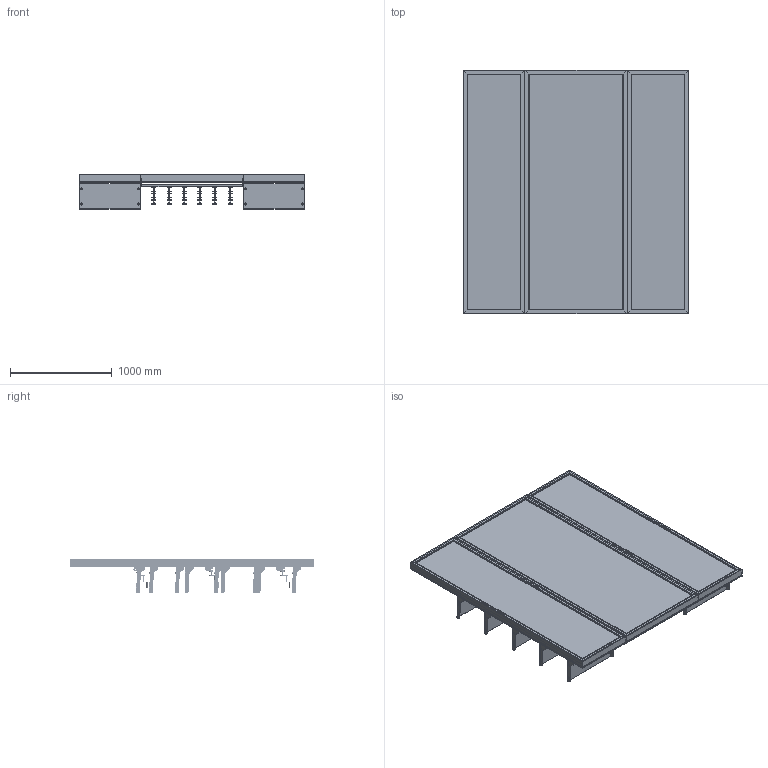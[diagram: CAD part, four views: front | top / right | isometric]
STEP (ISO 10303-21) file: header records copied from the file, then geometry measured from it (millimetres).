
FILE_DESCRIPTION (( 'STEP AP203' ), '1' );
FILE_NAME ('Padel Retail Display - Full Configuration.STEP', '2026-03-30T11:51:15', ( '' ), ( '' ), 'SwSTEP 2.0', 'SolidWorks 2025', '' );
FILE_SCHEMA (( 'CONFIG_CONTROL_DESIGN' ));
Length unit declared in the file: millimetre
Products named in the file (20): Padel Retail Display - Ball Solution_Assem1; 0001-31-GA01 - 610W Slotted Upright; Padel Retail Display - Full Configuration; 0001-31-SA29.STEP; 370-01-GA01; 0001-31-SA28 - 610W Glass Shelf_Assem5; Padel Racket Display 1005mm - 3 Tier Stepped Holder_Assem4; 0001-31-SA30.STEP; 0001-31-123.STEP; 0001-31-GA10 - 1005W Slotted upbright; 0001-31-124.STEP; 0001-31-114.STEP; 0000-31-113.STEP; Padel Retail Display - Water Bottle Display_Assem1; 0001-31-115.STEP; 0001-31-SA26 - 1005W Rear support Bar.STEP; 0001-31-103.STEP; 0001-31-SA26 - 1005W Rear support Bar_Assem8; 0001-31-SA28 - 610W Glass Shelf.STEP; 0001-31-131.STEP
Assembly tree (57 placements, depth 6):
  Padel Retail Display - Full Configuration
    Padel Retail Display - Ball Solution_Assem1
      0001-31-GA01 - 610W Slotted Upright
      0001-31-SA28 - 610W Glass Shelf_Assem5  x5
        0001-31-SA28 - 610W Glass Shelf.STEP
          0001-31-SA29.STEP
            0000-31-113.STEP
            0001-31-114.STEP  x2
          0001-31-SA30.STEP
            0000-31-113.STEP
            0001-31-114.STEP  x2
          0001-31-115.STEP
          0001-31-123.STEP  x8
          0001-31-124.STEP  x4
    Padel Racket Display 1005mm - 3 Tier Stepped Holder_Assem4
      0001-31-GA10 - 1005W Slotted upbright
      0001-31-SA26 - 1005W Rear support Bar_Assem8  x3
        0001-31-SA26 - 1005W Rear support Bar.STEP
          0001-31-103.STEP  x2
          0001-31-131.STEP
      370-01-GA01  x12
    Padel Retail Display - Water Bottle Display_Assem1
      0001-31-GA01 - 610W Slotted Upright
      0001-31-SA28 - 610W Glass Shelf_Assem5  x5
        0001-31-SA28 - 610W Glass Shelf.STEP
          0001-31-SA29.STEP
            0000-31-113.STEP
            0001-31-114.STEP  x2
          0001-31-SA30.STEP
            0000-31-113.STEP
            0001-31-114.STEP  x2
          0001-31-115.STEP
          0001-31-123.STEP  x8
          0001-31-124.STEP  x4
Bounding box: 2225.24 x 2400 x 340.44 mm (x, y, z)
Volume: 35384828.3 mm3; surface area: 33065216.3 mm2
Topology: 445 solids, 445 shells, 6468 faces, 16566 edges, 10772 vertices
Faces by surface type: plane 4026, cylinder 2282, cone 160
Entity records: 50804 total; most frequent: CARTESIAN_POINT 9137, ORIENTED_EDGE 8636, DIRECTION 7144, EDGE_CURVE 4318, LINE 3866, VECTOR 3866, VERTEX_POINT 2864, AXIS2_PLACEMENT_3D 1639
